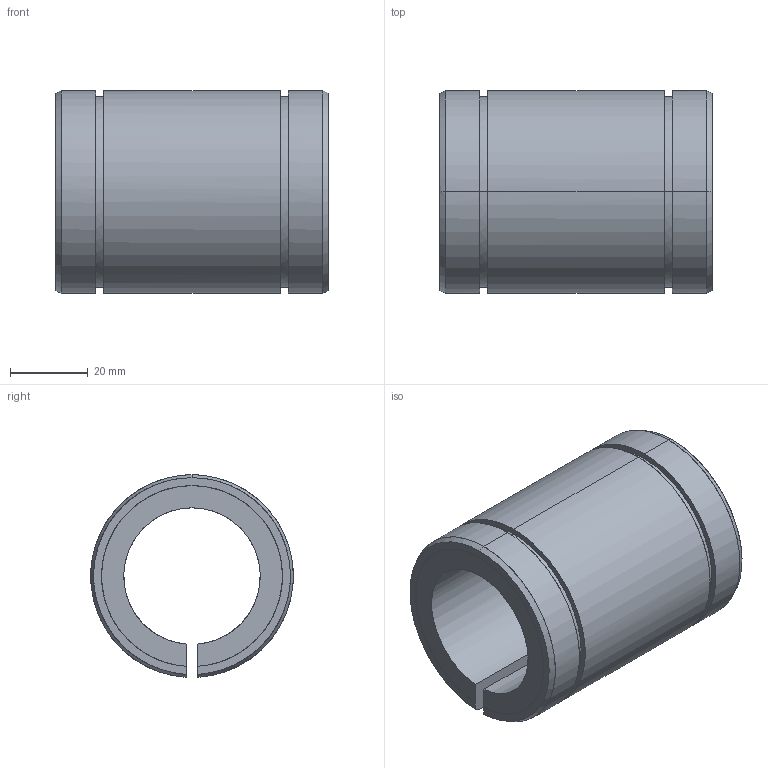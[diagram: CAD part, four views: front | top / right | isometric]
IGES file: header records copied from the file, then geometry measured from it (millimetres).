
Global section: file name: No Iges File Name specified; native system: AutoDesk Inventor R10; preprocessor: AutoDesk Inventor Iges Exporter R10; author: No Author specified; organization: No Organization specified; date: 20101208.100842; units: millimetre
Bounding box: 70 x 51.98 x 51.96 mm (x, y, z)
Surface area: 22878.5 mm2 (no closed solid volume)
Topology: 0 solids, 0 shells, 30 faces, 252 edges, 252 vertices
Faces by surface type: bspline 30
